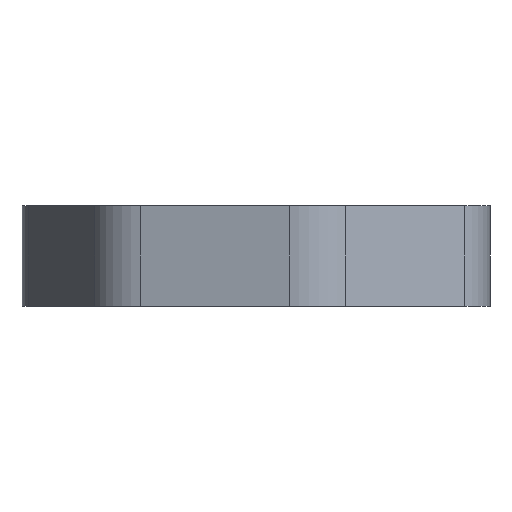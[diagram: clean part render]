
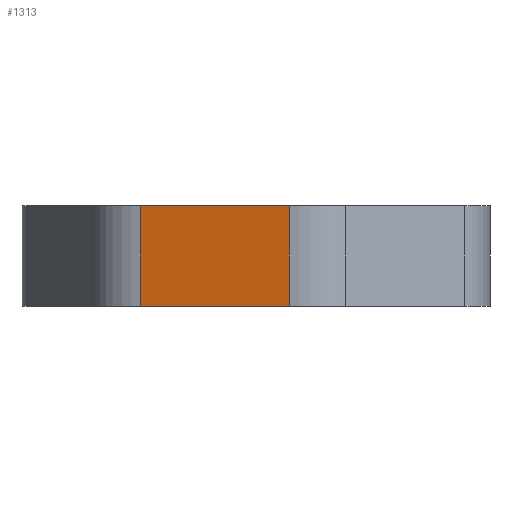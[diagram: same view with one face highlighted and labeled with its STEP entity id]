
A CAD part, left-side view. The second image highlights one B-rep face of the part: STEP entity #1313.
In plain terms, the highlighted planar face has unit normal (-0.975, 0.223, 0).
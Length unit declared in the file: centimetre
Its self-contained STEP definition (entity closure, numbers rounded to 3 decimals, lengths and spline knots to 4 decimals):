
#206=VERTEX_POINT('',#1792);
#208=VERTEX_POINT('',#1795);
#259=VERTEX_POINT('',#1912);
#271=VERTEX_POINT('',#1936);
#313=VECTOR('',#1469,1.);
#357=VECTOR('',#1577,1.);
#410=VECTOR('',#1675,1.);
#419=VECTOR('',#1693,1.);
#449=LINE('',#1794,#313);
#493=LINE('',#1937,#357);
#546=LINE('',#2040,#410);
#555=LINE('',#2055,#419);
#604=EDGE_CURVE('',#208,#206,#449,.T.);
#679=EDGE_CURVE('',#259,#271,#493,.T.);
#732=EDGE_CURVE('',#259,#206,#546,.T.);
#741=EDGE_CURVE('',#208,#271,#555,.T.);
#1114=ORIENTED_EDGE('',*,*,#732,.F.);
#1115=ORIENTED_EDGE('',*,*,#679,.T.);
#1116=ORIENTED_EDGE('',*,*,#741,.F.);
#1117=ORIENTED_EDGE('',*,*,#604,.T.);
#1183=EDGE_LOOP('',(#1114,#1115,#1116,#1117));
#1249=FACE_BOUND('',#1183,.T.);
#1313=ADVANCED_FACE('',(#1249),#2105,.T.);
#1412=AXIS2_PLACEMENT_3D('',#2066,#1707,$);
#1469=DIRECTION('',(-0.223,-0.975,0.));
#1577=DIRECTION('',(0.223,0.975,0.));
#1675=DIRECTION('',(0.,0.,-1.));
#1693=DIRECTION('',(0.,0.,1.));
#1707=DIRECTION('',(-0.975,0.223,0.));
#1792=CARTESIAN_POINT('',(-2.8391,-0.292,0.));
#1794=CARTESIAN_POINT('',(-2.3455,1.8705,0.));
#1795=CARTESIAN_POINT('',(-2.4312,1.4949,0.));
#1912=CARTESIAN_POINT('',(-2.8391,-0.292,1.2));
#1936=CARTESIAN_POINT('',(-2.4312,1.4949,1.2));
#1937=CARTESIAN_POINT('',(-2.3455,1.8705,1.2));
#2040=CARTESIAN_POINT('',(-2.8391,-0.292,0.));
#2055=CARTESIAN_POINT('',(-2.4312,1.4949,0.));
#2066=CARTESIAN_POINT('',(-2.6351,0.6015,0.));
#2105=PLANE('',#1412);
